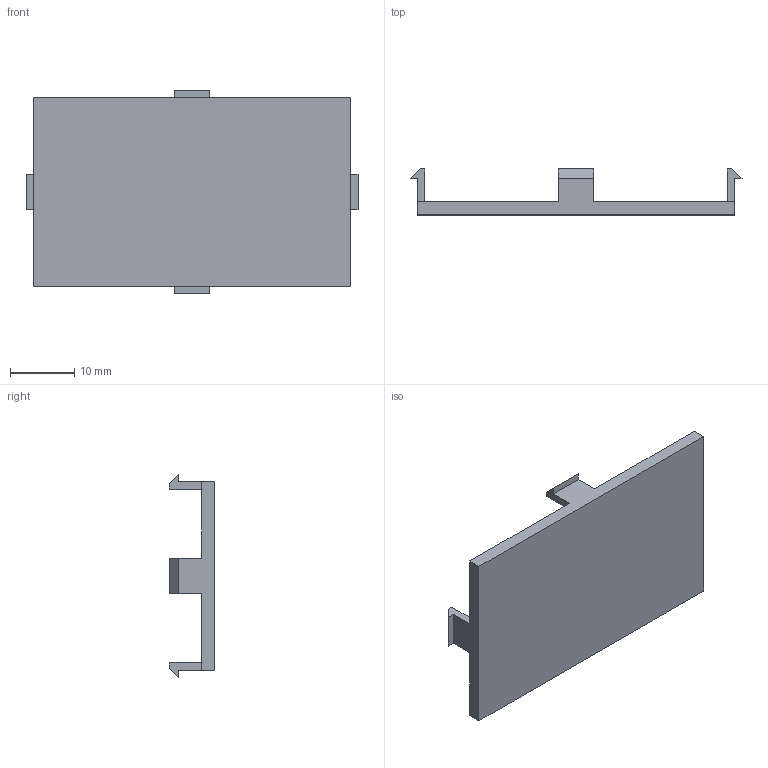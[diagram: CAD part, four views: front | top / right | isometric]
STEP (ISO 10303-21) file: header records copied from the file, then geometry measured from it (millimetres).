
FILE_DESCRIPTION (( 'STEP AP214' ), '1' );
FILE_NAME ('Tapeta Botones PP64A.STEP', '2017-09-06T07:31:44', ( 'aaa' ), ( '' ), 'SwSTEP 2.0', 'SolidWorks 2013', '' );
FILE_SCHEMA (( 'AUTOMOTIVE_DESIGN' ));
Length unit declared in the file: millimetre
Products named in the file (1): Tapeta Botones PP64A
Bounding box: 51.62 x 7.15 x 31.6 mm (x, y, z)
Volume: 3102 mm3; surface area: 3555.1 mm2
Topology: 1 solids, 1 shells, 33 faces, 90 edges, 60 vertices
Faces by surface type: plane 31, cylinder 2
Entity records: 1062 total; most frequent: CARTESIAN_POINT 184, ORIENTED_EDGE 180, DIRECTION 162, EDGE_CURVE 90, LINE 86, VECTOR 86, VERTEX_POINT 60, AXIS2_PLACEMENT_3D 38
